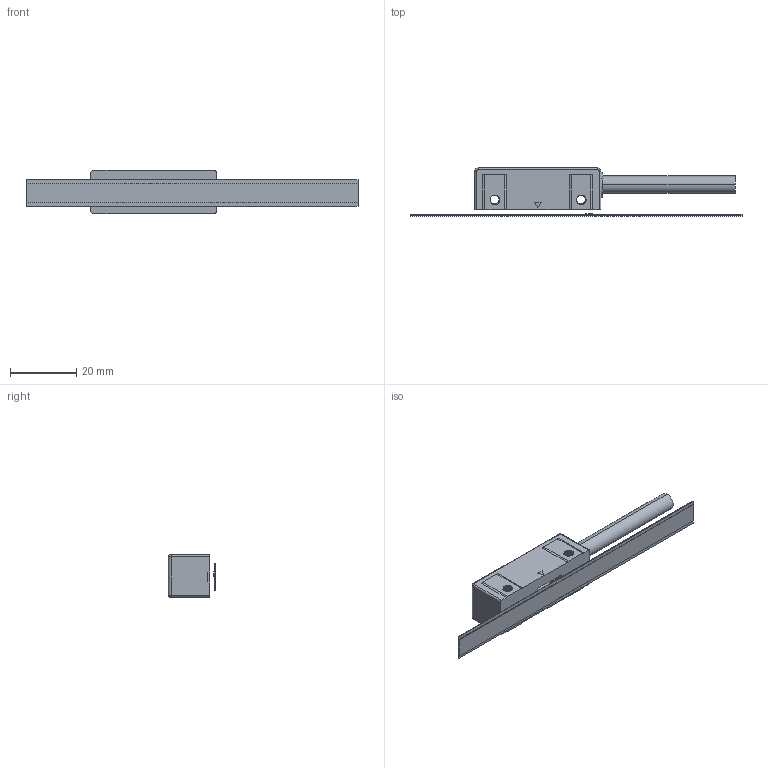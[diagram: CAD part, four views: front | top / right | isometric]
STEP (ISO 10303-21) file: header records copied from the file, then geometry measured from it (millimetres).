
FILE_DESCRIPTION (( 'STEP AP203' ), '1' );
FILE_NAME ('陔笢俶黍杅芛湍', '2024-01-12T03:21:52', ( '' ), ( '' ), 'SwSTEP 2.0', 'SolidWorks 2023', '' );
FILE_SCHEMA (( 'CONFIG_CONTROL_DESIGN' ));
Length unit declared in the file: millimetre
Products named in the file (9): 中性读数头; 新钢带头盖子-2; 新钢带头（中性带零位）; 新中性读数头带钢带; Part4; 背胶; Part6^新中性读数头带钢带; CABLE; PR128钢带
Assembly tree (7 placements, depth 3):
  新中性读数头带钢带
    中性读数头
      新钢带头（中性带零位）
      新钢带头盖子-2
    PR128钢带
    背胶
    Part4
    CABLE
  Part6^新中性读数头带钢带
Bounding box: 100 x 14.45 x 13 mm (x, y, z)
Volume: 4117.2 mm3; surface area: 8182.2 mm2
Topology: 7 solids, 7 shells, 2335 faces, 5744 edges, 3817 vertices
Faces by surface type: plane 2060, cylinder 243, bspline 20, torus 8, cone 4
Entity records: 81181 total; most frequent: CARTESIAN_POINT 26068, ORIENTED_EDGE 11488, DIRECTION 10025, EDGE_CURVE 5744, VECTOR 5177, LINE 5177, VERTEX_POINT 3817, EDGE_LOOP 2749
